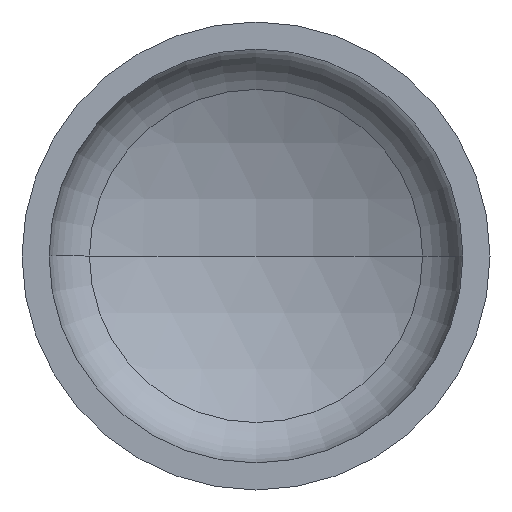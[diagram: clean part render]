
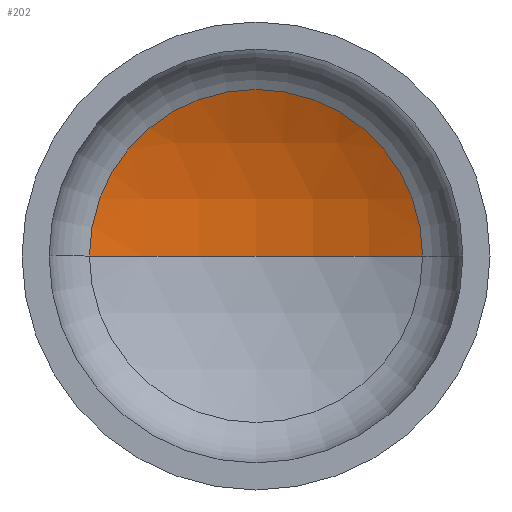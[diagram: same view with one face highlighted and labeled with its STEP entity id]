
A CAD part, front view. The second image highlights one B-rep face of the part: STEP entity #202.
In plain terms, the highlighted spherical face has radius 720 mm.
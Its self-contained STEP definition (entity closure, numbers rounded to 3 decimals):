
#19 = EDGE_LOOP ( 'NONE', ( #47, #134, #159 ) ) ;
#32 = VERTEX_POINT ( 'NONE', #245 ) ;
#47 = ORIENTED_EDGE ( 'NONE', *, *, #262, .F. ) ;
#82 = VERTEX_POINT ( 'NONE', #214 ) ;
#124 = AXIS2_PLACEMENT_3D ( 'NONE', #272, #240, #238 ) ;
#126 = FACE_OUTER_BOUND ( 'NONE', #19, .T. ) ;
#127 = AXIS2_PLACEMENT_3D ( 'NONE', #254, #404, #251 ) ;
#129 = VERTEX_POINT ( 'NONE', #317 ) ;
#134 = ORIENTED_EDGE ( 'NONE', *, *, #259, .T. ) ;
#146 = AXIS2_PLACEMENT_3D ( 'NONE', #184, #185, #203 ) ;
#159 = ORIENTED_EDGE ( 'NONE', *, *, #253, .T. ) ;
#183 = AXIS2_PLACEMENT_3D ( 'NONE', #335, #187, #345 ) ;
#184 = CARTESIAN_POINT ( 'NONE',  ( 0., 245.386, 0. ) ) ;
#185 = DIRECTION ( 'NONE',  ( 0., -1., 0. ) ) ;
#187 = DIRECTION ( 'NONE',  ( 0., 0., -1. ) ) ;
#199 = CIRCLE ( 'NONE', #146, 320.276 ) ;
#202 = ADVANCED_FACE ( 'NONE', ( #126 ), #403, .F. ) ;
#203 = DIRECTION ( 'NONE',  ( 1., 0., 0. ) ) ;
#214 = CARTESIAN_POINT ( 'NONE',  ( 320.276, 245.386, 0. ) ) ;
#238 = DIRECTION ( 'NONE',  ( 1., 0., 0. ) ) ;
#240 = DIRECTION ( 'NONE',  ( 0., 0., 1. ) ) ;
#245 = CARTESIAN_POINT ( 'NONE',  ( -320.276, 245.386, 0. ) ) ;
#251 = DIRECTION ( 'NONE',  ( -1., 0., 0. ) ) ;
#253 = EDGE_CURVE ( 'NONE', #82, #32, #199, .T. ) ;
#254 = CARTESIAN_POINT ( 'NONE',  ( 0., -399.457, 0. ) ) ;
#259 = EDGE_CURVE ( 'NONE', #129, #82, #342, .T. ) ;
#262 = EDGE_CURVE ( 'NONE', #129, #32, #270, .T. ) ;
#270 = CIRCLE ( 'NONE', #124, 720. ) ;
#272 = CARTESIAN_POINT ( 'NONE',  ( 0., -399.457, 0. ) ) ;
#317 = CARTESIAN_POINT ( 'NONE',  ( 0., 320.543, 0. ) ) ;
#335 = CARTESIAN_POINT ( 'NONE',  ( 0., -399.457, 0. ) ) ;
#342 = CIRCLE ( 'NONE', #127, 720. ) ;
#345 = DIRECTION ( 'NONE',  ( -1., 0., 0. ) ) ;
#403 = SPHERICAL_SURFACE ( 'NONE', #183, 720. ) ;
#404 = DIRECTION ( 'NONE',  ( 0., 0., -1. ) ) ;
